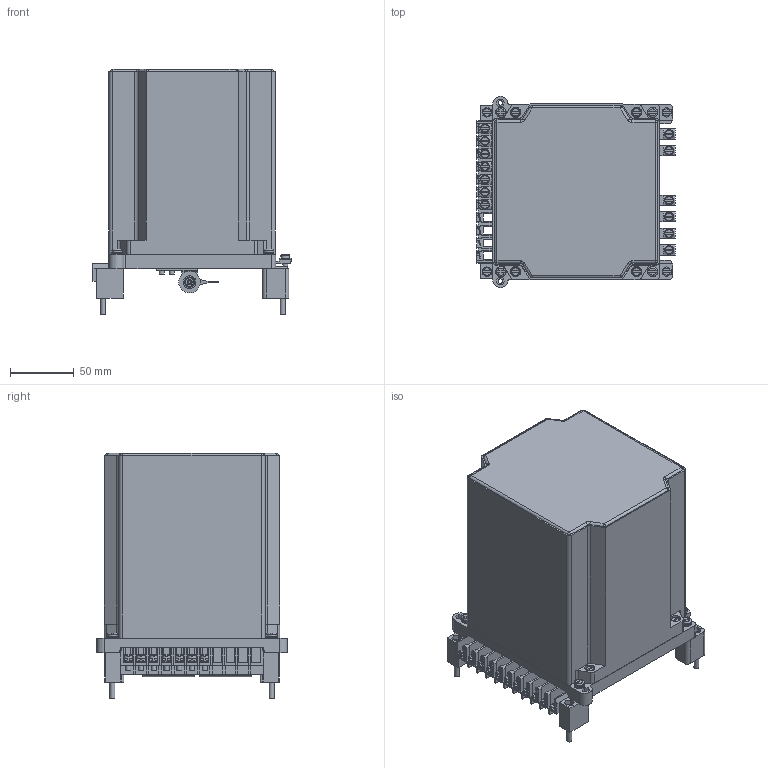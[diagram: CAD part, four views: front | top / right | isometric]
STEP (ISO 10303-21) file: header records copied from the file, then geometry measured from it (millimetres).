
FILE_DESCRIPTION(('STEP AP214'), '1');
FILE_NAME('ÐÒÔ-8 ï.ï.', '', ('UNSPECIFIED'), ('UNSPECIFIED'), 'ASCON STEP Converter 1.3', 'ASCON Math Kernel', '');
FILE_SCHEMA(('AUTOMOTIVE_DESIGN { 1 0 10303 214 3 1 1}'));
Length unit declared in the file: millimetre
Bounding box: 155.75 x 149.97 x 192.5 mm (x, y, z)
Volume: 2649453.1 mm3; surface area: 210746 mm2
Topology: 16 solids, 16 shells, 7141 faces, 18146 edges, 11268 vertices
Faces by surface type: plane 5404, cylinder 934, extrusion 589, torus 139, cone 75
Full cylindrical faces by diameter (mm): 2 x4, 3.2 x7, 3.5 x2, 4 x54, 4.3 x16, 4.5 x23, 5.2 x11, 5.3 x5, 5.9 x2, 7.5 x2, 8 x10, 8.5 x2, 10 x4, 17 x2
Entity records: 276180 total; most frequent: CARTESIAN_POINT 50395, ORIENTED_EDGE 35736, DIRECTION 32095, EDGE_CURVE 17868, VECTOR 14163, LINE 13574, VERTEX_POINT 11261, AXIS2_PLACEMENT_3D 8966
